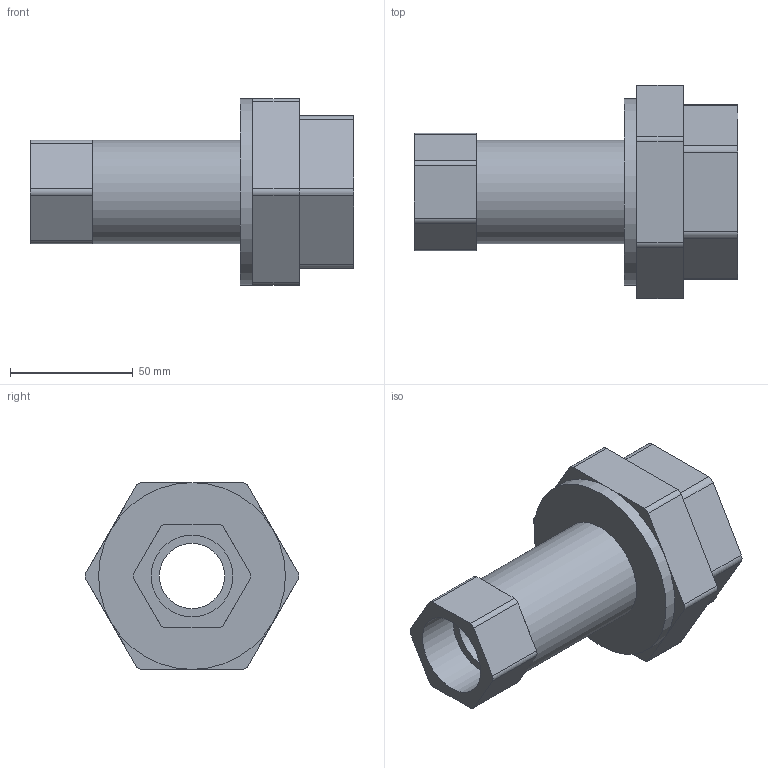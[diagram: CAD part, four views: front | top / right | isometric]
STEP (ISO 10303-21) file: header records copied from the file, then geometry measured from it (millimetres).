
FILE_DESCRIPTION(/* description */ ('VIC VALVE BALANCING LOW LEAD TA SERIES 76X (FPT)-POTABLE WATER'),/* implementation_level */ '2;1');
FILE_NAME(/* name */ 'C:\Files for Export\76X\Victaulic_IPS-HB_Valve ICSS-Low Lead Balancing POTW_TA Series 76X (FPT)\Victaulic_IPS-HB_Valve ICSS-Low Lead Balancing POTW_TA Series 76X (FPT)_1 (25).stp',/* time_stamp */ '2024-03-08T10:54:07+01:00',/* author */ ('Vjadhav'),/* organization */ ('Victaulic'),/* preprocessor_version */ 'ST-DEVELOPER v18.1',/* originating_system */ 'Autodesk Inventor 2020',/* authorisation */ '');
FILE_SCHEMA (('AUTOMOTIVE_DESIGN { 1 0 10303 214 3 1 1 }'));
Length unit declared in the file: inch
Products named in the file (1): 76X-01.0
Bounding box: 132.08 x 87.2 x 76.2 mm (x, y, z)
Volume: 232405.9 mm3; surface area: 43651.9 mm2
Topology: 1 solids, 1 shells, 59 faces, 152 edges, 99 vertices
Faces by surface type: plane 36, cylinder 23
Full cylindrical faces by diameter (mm): 26.645 x1, 33.401 x2, 42.164 x1, 76.2 x1
Entity records: 1919 total; most frequent: DIRECTION 335, CARTESIAN_POINT 311, ORIENTED_EDGE 304, EDGE_CURVE 152, AXIS2_PLACEMENT_3D 123, VERTEX_POINT 99, LINE 89, VECTOR 89
